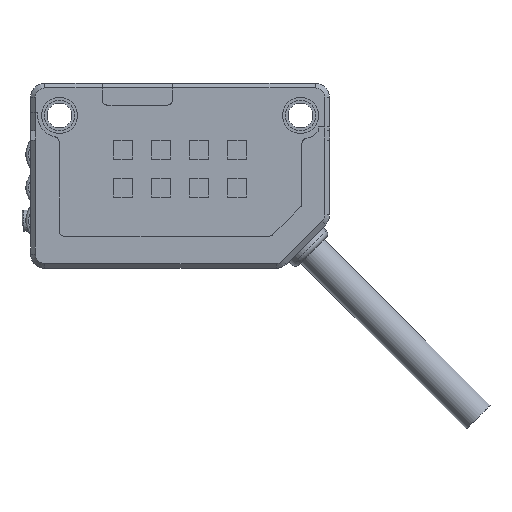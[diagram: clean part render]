
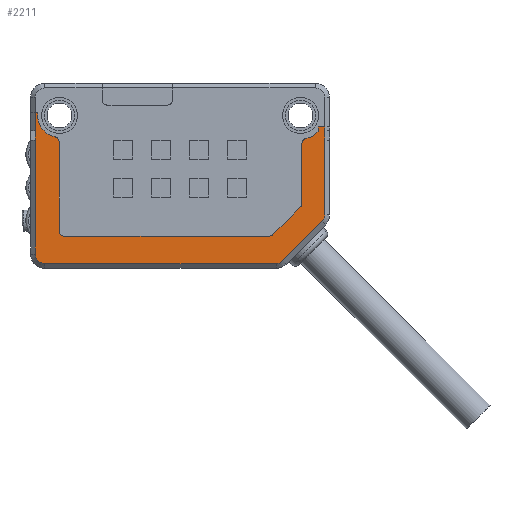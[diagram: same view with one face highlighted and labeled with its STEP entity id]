
A CAD part, left-side view. The second image highlights one B-rep face of the part: STEP entity #2211.
In plain terms, the highlighted planar face has unit normal (-1, 0, 0).
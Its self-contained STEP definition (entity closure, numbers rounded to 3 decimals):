
#1783=CIRCLE('',#5993,0.5);
#1784=CIRCLE('',#5994,0.5);
#1785=CIRCLE('',#5995,0.5);
#1786=CIRCLE('',#5996,0.5);
#1787=CIRCLE('',#5997,2.5);
#1792=CIRCLE('',#6002,2.3);
#1793=CIRCLE('',#6003,0.5);
#1873=CIRCLE('',#6149,1.);
#1874=CIRCLE('',#6152,1.);
#1875=CIRCLE('',#6155,1.);
#2211=ADVANCED_FACE('',(#2593),#2382,.T.);
#2382=PLANE('',#6344);
#2593=FACE_OUTER_BOUND('',#2871,.T.);
#2871=EDGE_LOOP('',(#4035,#4036,#4037,#4038,#4039,#4040,#4041,#4042,#4043,
#4044,#4045,#4046,#4047,#4048,#4049,#4050,#4051,#4052,#4053,#4054,#4055,
#4056,#4057,#4058,#4059));
#4035=ORIENTED_EDGE('',*,*,#4586,.F.);
#4036=ORIENTED_EDGE('',*,*,#4585,.F.);
#4037=ORIENTED_EDGE('',*,*,#4606,.F.);
#4038=ORIENTED_EDGE('',*,*,#4605,.F.);
#4039=ORIENTED_EDGE('',*,*,#4604,.F.);
#4040=ORIENTED_EDGE('',*,*,#4603,.F.);
#4041=ORIENTED_EDGE('',*,*,#5102,.T.);
#4042=ORIENTED_EDGE('',*,*,#4885,.F.);
#4043=ORIENTED_EDGE('',*,*,#4845,.T.);
#4044=ORIENTED_EDGE('',*,*,#4862,.T.);
#4045=ORIENTED_EDGE('',*,*,#4864,.T.);
#4046=ORIENTED_EDGE('',*,*,#4866,.T.);
#4047=ORIENTED_EDGE('',*,*,#4868,.T.);
#4048=ORIENTED_EDGE('',*,*,#4869,.T.);
#4049=ORIENTED_EDGE('',*,*,#4838,.T.);
#4050=ORIENTED_EDGE('',*,*,#4899,.T.);
#4051=ORIENTED_EDGE('',*,*,#5103,.T.);
#4052=ORIENTED_EDGE('',*,*,#4594,.F.);
#4053=ORIENTED_EDGE('',*,*,#4593,.F.);
#4054=ORIENTED_EDGE('',*,*,#4592,.F.);
#4055=ORIENTED_EDGE('',*,*,#4591,.F.);
#4056=ORIENTED_EDGE('',*,*,#4590,.F.);
#4057=ORIENTED_EDGE('',*,*,#4589,.F.);
#4058=ORIENTED_EDGE('',*,*,#4588,.F.);
#4059=ORIENTED_EDGE('',*,*,#4587,.F.);
#4096=VERTEX_POINT('',#7558);
#4108=VERTEX_POINT('',#7588);
#4168=VERTEX_POINT('',#7716);
#4169=VERTEX_POINT('',#7717);
#4170=VERTEX_POINT('',#7719);
#4171=VERTEX_POINT('',#7721);
#4172=VERTEX_POINT('',#7723);
#4173=VERTEX_POINT('',#7725);
#4174=VERTEX_POINT('',#7727);
#4175=VERTEX_POINT('',#7729);
#4176=VERTEX_POINT('',#7731);
#4177=VERTEX_POINT('',#7733);
#4183=VERTEX_POINT('',#7749);
#4184=VERTEX_POINT('',#7751);
#4185=VERTEX_POINT('',#7753);
#4369=VERTEX_POINT('',#8597);
#4370=VERTEX_POINT('',#8599);
#4373=VERTEX_POINT('',#8609);
#4374=VERTEX_POINT('',#8611);
#4381=VERTEX_POINT('',#8642);
#4382=VERTEX_POINT('',#8646);
#4383=VERTEX_POINT('',#8650);
#4384=VERTEX_POINT('',#8654);
#4391=VERTEX_POINT('',#8687);
#4395=VERTEX_POINT('',#8707);
#4585=EDGE_CURVE('',#4168,#4169,#1783,.T.);
#4586=EDGE_CURVE('',#4169,#4170,#5186,.T.);
#4587=EDGE_CURVE('',#4170,#4171,#1784,.T.);
#4588=EDGE_CURVE('',#4171,#4172,#5187,.T.);
#4589=EDGE_CURVE('',#4172,#4173,#1785,.T.);
#4590=EDGE_CURVE('',#4173,#4174,#5188,.T.);
#4591=EDGE_CURVE('',#4174,#4175,#1786,.T.);
#4592=EDGE_CURVE('',#4175,#4176,#1787,.T.);
#4593=EDGE_CURVE('',#4176,#4177,#5189,.T.);
#4594=EDGE_CURVE('',#4177,#4108,#5190,.T.);
#4603=EDGE_CURVE('',#4096,#4183,#5195,.T.);
#4604=EDGE_CURVE('',#4183,#4184,#1792,.T.);
#4605=EDGE_CURVE('',#4184,#4185,#1793,.T.);
#4606=EDGE_CURVE('',#4185,#4168,#5196,.T.);
#4838=EDGE_CURVE('',#4370,#4369,#5332,.T.);
#4845=EDGE_CURVE('',#4373,#4374,#5339,.T.);
#4862=EDGE_CURVE('',#4374,#4381,#1873,.T.);
#4864=EDGE_CURVE('',#4381,#4382,#5346,.T.);
#4866=EDGE_CURVE('',#4382,#4383,#1874,.T.);
#4868=EDGE_CURVE('',#4383,#4384,#5349,.T.);
#4869=EDGE_CURVE('',#4384,#4370,#1875,.T.);
#4885=EDGE_CURVE('',#4373,#4391,#5362,.T.);
#4899=EDGE_CURVE('',#4369,#4395,#5376,.T.);
#5102=EDGE_CURVE('',#4096,#4391,#5539,.T.);
#5103=EDGE_CURVE('',#4395,#4108,#5540,.T.);
#5186=LINE('',#7718,#5621);
#5187=LINE('',#7722,#5622);
#5188=LINE('',#7726,#5623);
#5189=LINE('',#7732,#5624);
#5190=LINE('',#7734,#5625);
#5195=LINE('',#7748,#5630);
#5196=LINE('',#7754,#5631);
#5332=LINE('',#8598,#5767);
#5339=LINE('',#8612,#5774);
#5346=LINE('',#8647,#5781);
#5349=LINE('',#8655,#5784);
#5362=LINE('',#8690,#5797);
#5376=LINE('',#8718,#5811);
#5539=LINE('',#9151,#5974);
#5540=LINE('',#9152,#5975);
#5621=VECTOR('',#6465,1.);
#5622=VECTOR('',#6468,1.);
#5623=VECTOR('',#6471,1.);
#5624=VECTOR('',#6476,1.);
#5625=VECTOR('',#6477,1.);
#5630=VECTOR('',#6490,1.);
#5631=VECTOR('',#6495,1.);
#5767=VECTOR('',#6881,1.);
#5774=VECTOR('',#6892,1.);
#5781=VECTOR('',#6939,1.);
#5784=VECTOR('',#6948,1.);
#5797=VECTOR('',#6991,1.);
#5811=VECTOR('',#7021,1.);
#5974=VECTOR('',#7518,1.);
#5975=VECTOR('',#7519,1.);
#5993=AXIS2_PLACEMENT_3D('',#7715,#6463,#6464);
#5994=AXIS2_PLACEMENT_3D('',#7720,#6466,#6467);
#5995=AXIS2_PLACEMENT_3D('',#7724,#6469,#6470);
#5996=AXIS2_PLACEMENT_3D('',#7728,#6472,#6473);
#5997=AXIS2_PLACEMENT_3D('',#7730,#6474,#6475);
#6002=AXIS2_PLACEMENT_3D('',#7750,#6491,#6492);
#6003=AXIS2_PLACEMENT_3D('',#7752,#6493,#6494);
#6149=AXIS2_PLACEMENT_3D('',#8643,#6934,#6935);
#6152=AXIS2_PLACEMENT_3D('',#8651,#6943,#6944);
#6155=AXIS2_PLACEMENT_3D('',#8657,#6951,#6952);
#6344=AXIS2_PLACEMENT_3D('',#9153,#7520,#7521);
#6463=DIRECTION('',(-1.,0.,0.));
#6464=DIRECTION('',(0.,0.,1.));
#6465=DIRECTION('',(0.,-1.,0.));
#6466=DIRECTION('',(-1.,0.,0.));
#6467=DIRECTION('',(0.,0.,1.));
#6468=DIRECTION('',(0.,-0.707,0.707));
#6469=DIRECTION('',(-1.,0.,0.));
#6470=DIRECTION('',(0.,0.,1.));
#6471=DIRECTION('',(0.,0.,1.));
#6472=DIRECTION('',(1.,0.,0.));
#6473=DIRECTION('',(0.,0.,1.));
#6474=DIRECTION('',(-1.,0.,0.));
#6475=DIRECTION('',(0.,0.,1.));
#6476=DIRECTION('',(0.,0.,1.));
#6477=DIRECTION('',(0.,-1.,0.));
#6490=DIRECTION('',(0.,-1.,0.));
#6491=DIRECTION('',(-1.,0.,0.));
#6492=DIRECTION('',(0.,0.,1.));
#6493=DIRECTION('',(1.,0.,0.));
#6494=DIRECTION('',(0.,0.,1.));
#6495=DIRECTION('',(0.,0.,-1.));
#6881=DIRECTION('',(0.,0.,1.));
#6892=DIRECTION('',(0.,0.,-1.));
#6934=DIRECTION('',(-1.,0.,0.));
#6935=DIRECTION('',(0.,0.,1.));
#6939=DIRECTION('',(0.,-1.,0.));
#6943=DIRECTION('',(-1.,0.,0.));
#6944=DIRECTION('',(0.,0.,1.));
#6948=DIRECTION('',(0.,-0.707,0.707));
#6951=DIRECTION('',(-1.,0.,0.));
#6952=DIRECTION('',(0.,0.,1.));
#6991=DIRECTION('',(0.,0.,1.));
#7021=DIRECTION('',(0.,0.,1.));
#7518=DIRECTION('',(0.,0.,-1.));
#7519=DIRECTION('',(0.,0.,1.));
#7520=DIRECTION('',(-1.,0.,0.));
#7521=DIRECTION('',(0.,0.,-1.));
#7558=CARTESIAN_POINT('',(-5.4,15.25,-3.1));
#7588=CARTESIAN_POINT('',(-5.4,-15.25,-4.6));
#7715=CARTESIAN_POINT('',(-5.4,12.25,-15.6));
#7716=CARTESIAN_POINT('',(-5.4,12.75,-15.6));
#7717=CARTESIAN_POINT('',(-5.4,12.25,-16.1));
#7718=CARTESIAN_POINT('',(-5.4,15.75,-16.1));
#7719=CARTESIAN_POINT('',(-5.4,-9.417,-16.1));
#7720=CARTESIAN_POINT('',(-5.4,-9.417,-15.6));
#7721=CARTESIAN_POINT('',(-5.4,-9.771,-15.954));
#7722=CARTESIAN_POINT('',(-5.4,4.763,-30.487));
#7723=CARTESIAN_POINT('',(-5.4,-12.704,-13.021));
#7724=CARTESIAN_POINT('',(-5.4,-12.35,-12.667));
#7725=CARTESIAN_POINT('',(-5.4,-12.85,-12.667));
#7726=CARTESIAN_POINT('',(-5.4,-12.85,-19.5));
#7727=CARTESIAN_POINT('',(-5.4,-12.85,-6.329));
#7728=CARTESIAN_POINT('',(-5.4,-13.35,-6.329));
#7729=CARTESIAN_POINT('',(-5.4,-13.242,-5.841));
#7730=CARTESIAN_POINT('',(-5.4,-12.7,-3.4));
#7731=CARTESIAN_POINT('',(-5.4,-14.55,-5.082));
#7732=CARTESIAN_POINT('',(-5.4,-14.55,-19.5));
#7733=CARTESIAN_POINT('',(-5.4,-14.55,-4.6));
#7734=CARTESIAN_POINT('',(-5.4,15.75,-4.6));
#7748=CARTESIAN_POINT('',(-5.4,15.75,-3.1));
#7749=CARTESIAN_POINT('',(-5.4,14.98,-3.1));
#7750=CARTESIAN_POINT('',(-5.4,12.7,-3.4));
#7751=CARTESIAN_POINT('',(-5.4,13.152,-5.655));
#7752=CARTESIAN_POINT('',(-5.4,13.25,-6.145));
#7753=CARTESIAN_POINT('',(-5.4,12.75,-6.145));
#7754=CARTESIAN_POINT('',(-5.4,12.75,-19.5));
#8597=CARTESIAN_POINT('',(-5.4,-15.25,-6.));
#8598=CARTESIAN_POINT('',(-5.4,-15.25,-19.5));
#8599=CARTESIAN_POINT('',(-5.4,-15.25,-13.879));
#8609=CARTESIAN_POINT('',(-5.4,15.25,-6.));
#8611=CARTESIAN_POINT('',(-5.4,15.25,-18.));
#8612=CARTESIAN_POINT('',(-5.4,15.25,-19.5));
#8642=CARTESIAN_POINT('',(-5.4,14.25,-19.));
#8643=CARTESIAN_POINT('',(-5.4,14.25,-18.));
#8646=CARTESIAN_POINT('',(-5.4,-10.129,-19.));
#8647=CARTESIAN_POINT('',(-5.4,-10.129,-19.));
#8650=CARTESIAN_POINT('',(-5.4,-10.836,-18.707));
#8651=CARTESIAN_POINT('',(-5.4,-10.129,-18.));
#8654=CARTESIAN_POINT('',(-5.4,-14.957,-14.586));
#8655=CARTESIAN_POINT('',(-5.4,-14.957,-14.586));
#8657=CARTESIAN_POINT('',(-5.4,-14.25,-13.879));
#8687=CARTESIAN_POINT('',(-5.4,15.25,-5.));
#8690=CARTESIAN_POINT('',(-5.4,15.25,-6.));
#8707=CARTESIAN_POINT('',(-5.4,-15.25,-5.));
#8718=CARTESIAN_POINT('',(-5.4,-15.25,-6.));
#9151=CARTESIAN_POINT('',(-5.4,15.25,-19.5));
#9152=CARTESIAN_POINT('',(-5.4,-15.25,-19.5));
#9153=CARTESIAN_POINT('',(-5.4,15.75,-19.5));
